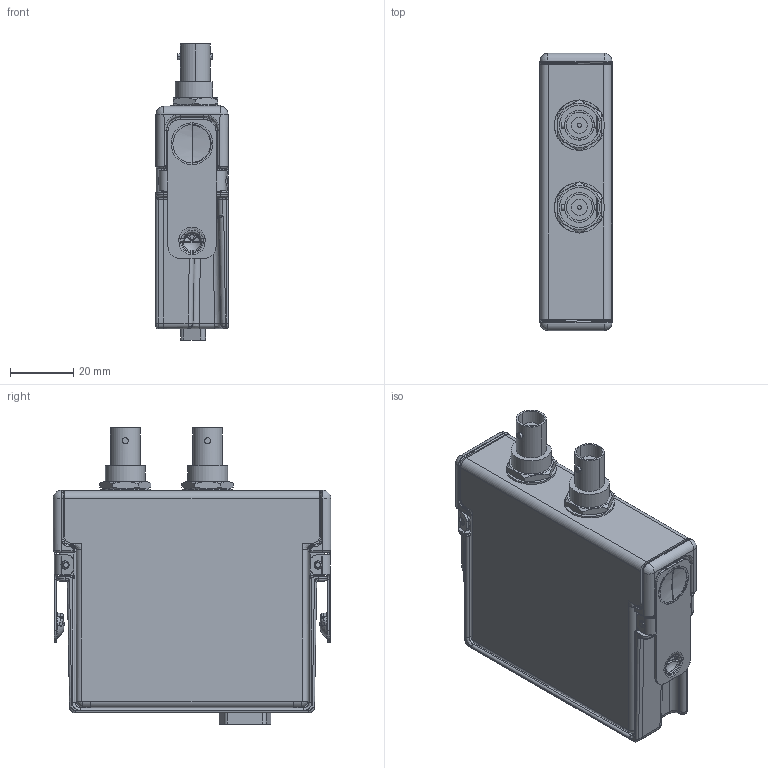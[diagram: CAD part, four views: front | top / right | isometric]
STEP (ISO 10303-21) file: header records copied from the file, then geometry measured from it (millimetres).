
FILE_DESCRIPTION((''),'2;1');
FILE_NAME('CU_NI-9260_BNC','2014-10-31T',('dkendric'),(''),'PRO/ENGINEER BY PARAMETRIC TECHNOLOGY CORPORATION, 2014000','PRO/ENGINEER BY PARAMETRIC TECHNOLOGY CORPORATION, 2014000','');
FILE_SCHEMA(('CONFIG_CONTROL_DESIGN'));
Products named in the file (1): CU_NI-9260_BNC
Bounding box: 22.86 x 88.11 x 94.06 mm (x, y, z)
Volume: 19168.8 mm3; surface area: 51078.4 mm2
Topology: 4 solids, 21 shells, 1430 faces, 3572 edges, 2120 vertices
Faces by surface type: cylinder 490, plane 390, bspline 317, torus 102, sphere 55, extrusion 46, cone 30
Entity records: 58425 total; most frequent: CARTESIAN_POINT 27396, ORIENTED_EDGE 6852, DIRECTION 5649, EDGE_CURVE 3510, VERTEX_POINT 2158, AXIS2_PLACEMENT_3D 2068, VECTOR 1513, EDGE_LOOP 1494
